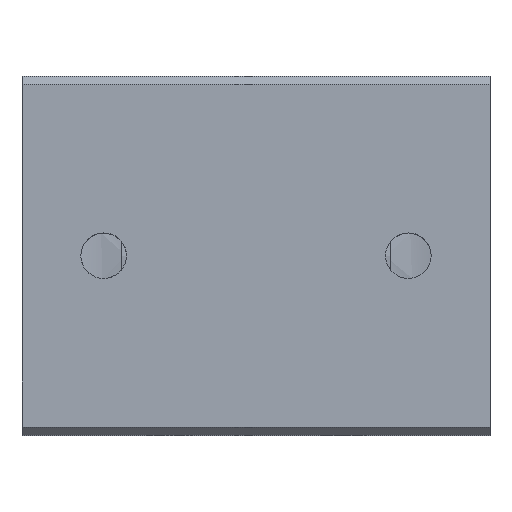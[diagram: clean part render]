
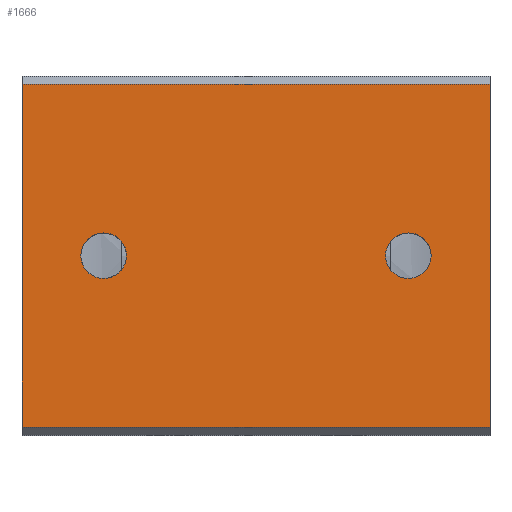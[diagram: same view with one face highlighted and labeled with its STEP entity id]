
A CAD part, top view. The second image highlights one B-rep face of the part: STEP entity #1666.
In plain terms, the highlighted planar face has unit normal (0, 0, 1).
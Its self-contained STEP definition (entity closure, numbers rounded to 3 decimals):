
#1514=CARTESIAN_POINT('',(86.0,-31.5,45.));
#1515=VERTEX_POINT('',#1514);
#1522=CARTESIAN_POINT('',(0.0,-31.5,45.));
#1523=VERTEX_POINT('',#1522);
#1524=CARTESIAN_POINT('',(86.0,-31.5,45.));
#1525=DIRECTION('',(-1.0,0.0,0.0));
#1526=VECTOR('',#1525,86.0);
#1527=LINE('',#1524,#1526);
#1528=EDGE_CURVE('',#1515,#1523,#1527,.T.);
#1553=CARTESIAN_POINT('',(0.0,31.5,45.));
#1554=VERTEX_POINT('',#1553);
#1555=CARTESIAN_POINT('',(0.0,-31.5,45.));
#1556=DIRECTION('',(0.0,1.0,0.0));
#1557=VECTOR('',#1556,63.);
#1558=LINE('',#1555,#1557);
#1559=EDGE_CURVE('',#1523,#1554,#1558,.T.);
#1621=CARTESIAN_POINT('',(0.0,-33.,45.));
#1622=DIRECTION('',(0.0,0.0,1.0));
#1623=DIRECTION('',(1.0,0.0,0.0));
#1624=AXIS2_PLACEMENT_3D('',#1621,#1622,#1623);
#1625=PLANE('',#1624);
#1626=ORIENTED_EDGE('',*,*,#1528,.F.);
#1627=CARTESIAN_POINT('',(86.0,31.5,45.));
#1628=VERTEX_POINT('',#1627);
#1629=CARTESIAN_POINT('',(86.0,-31.5,45.));
#1630=DIRECTION('',(0.0,1.0,0.0));
#1631=VECTOR('',#1630,63.);
#1632=LINE('',#1629,#1631);
#1633=EDGE_CURVE('',#1515,#1628,#1632,.T.);
#1634=ORIENTED_EDGE('',*,*,#1633,.T.);
#1635=CARTESIAN_POINT('',(0.0,31.5,45.));
#1636=DIRECTION('',(1.0,0.0,0.0));
#1637=VECTOR('',#1636,86.0);
#1638=LINE('',#1635,#1637);
#1639=EDGE_CURVE('',#1554,#1628,#1638,.T.);
#1640=ORIENTED_EDGE('',*,*,#1639,.F.);
#1641=ORIENTED_EDGE('',*,*,#1559,.F.);
#1642=EDGE_LOOP('',(#1626,#1634,#1640,#1641));
#1643=FACE_OUTER_BOUND('',#1642,.T.);
#1644=CARTESIAN_POINT('',(19.188,0.0,45.0));
#1645=VERTEX_POINT('',#1644);
#1646=CARTESIAN_POINT('',(15.,0.0,45.));
#1647=DIRECTION('',(0.0,0.0,-1.0));
#1648=DIRECTION('',(1.0,0.0,0.0));
#1649=AXIS2_PLACEMENT_3D('',#1646,#1647,#1648);
#1650=CIRCLE('',#1649,4.188);
#1651=EDGE_CURVE('',#1645,#1645,#1650,.T.);
#1652=ORIENTED_EDGE('',*,*,#1651,.T.);
#1653=EDGE_LOOP('',(#1652));
#1654=FACE_BOUND('',#1653,.T.);
#1655=CARTESIAN_POINT('',(75.188,0.,45.0));
#1656=VERTEX_POINT('',#1655);
#1657=CARTESIAN_POINT('',(71.0,0.,45.));
#1658=DIRECTION('',(0.0,0.0,-1.0));
#1659=DIRECTION('',(1.0,0.0,0.0));
#1660=AXIS2_PLACEMENT_3D('',#1657,#1658,#1659);
#1661=CIRCLE('',#1660,4.188);
#1662=EDGE_CURVE('',#1656,#1656,#1661,.T.);
#1663=ORIENTED_EDGE('',*,*,#1662,.T.);
#1664=EDGE_LOOP('',(#1663));
#1665=FACE_BOUND('',#1664,.T.);
#1666=ADVANCED_FACE('',(#1643,#1654,#1665),#1625,.T.);
